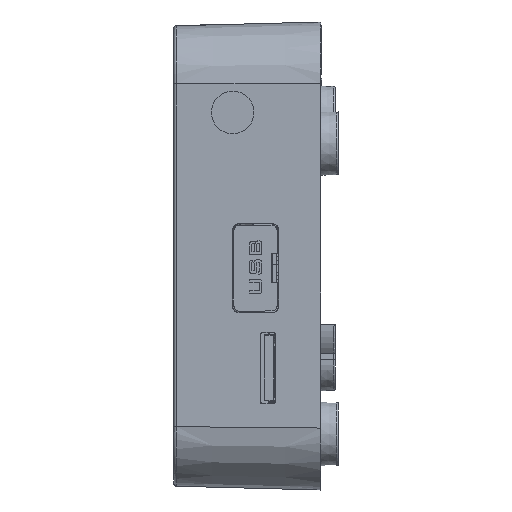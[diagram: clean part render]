
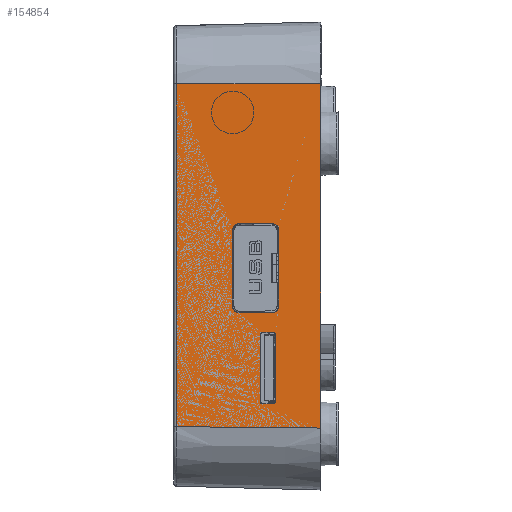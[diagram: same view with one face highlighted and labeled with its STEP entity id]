
A CAD part, left-side view. The second image highlights one B-rep face of the part: STEP entity #154854.
In plain terms, the highlighted planar face has unit normal (-1, 0.026, 0).
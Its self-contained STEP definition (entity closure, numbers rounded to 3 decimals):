
#4531=ELLIPSE('',#162368,0.356,0.356);
#4533=ELLIPSE('',#162372,0.356,0.356);
#4535=ELLIPSE('',#162376,0.357,0.357);
#4537=ELLIPSE('',#162380,0.357,0.357);
#4539=ELLIPSE('',#162384,1.12,1.12);
#4541=ELLIPSE('',#162388,1.116,1.116);
#4543=ELLIPSE('',#162392,1.12,1.12);
#4545=ELLIPSE('',#162396,1.116,1.116);
#4558=ELLIPSE('',#162851,0.6,0.6);
#9482=FACE_BOUND('',#18553,.T.);
#9483=FACE_BOUND('',#18554,.T.);
#11294=FACE_OUTER_BOUND('',#18552,.T.);
#18552=EDGE_LOOP('',(#112711,#112712,#112713,#112714,#112715,#112716));
#18553=EDGE_LOOP('',(#112717,#112718,#112719,#112720,#112721,#112722,#112723,
#112724));
#18554=EDGE_LOOP('',(#112725,#112726,#112727,#112728,#112729,#112730,#112731,
#112732));
#30679=LINE('',#219072,#47432);
#30683=LINE('',#219084,#47436);
#30687=LINE('',#219096,#47440);
#30692=LINE('',#219109,#47445);
#30695=LINE('',#219120,#47448);
#30699=LINE('',#219132,#47452);
#30702=LINE('',#219142,#47455);
#30708=LINE('',#219157,#47461);
#31305=LINE('',#224211,#48058);
#31307=LINE('',#224224,#48060);
#31315=LINE('',#224249,#48068);
#31335=LINE('',#224366,#48088);
#31336=LINE('',#224369,#48089);
#47432=VECTOR('',#176522,10.);
#47436=VECTOR('',#176534,10.);
#47440=VECTOR('',#176546,10.);
#47445=VECTOR('',#176559,10.);
#47448=VECTOR('',#176570,10.);
#47452=VECTOR('',#176582,10.);
#47455=VECTOR('',#176593,10.);
#47461=VECTOR('',#176607,10.);
#48058=VECTOR('',#178008,10.);
#48060=VECTOR('',#178028,10.001);
#48068=VECTOR('',#178056,2.43);
#48088=VECTOR('',#178148,10.);
#48089=VECTOR('',#178151,10.);
#64289=VERTEX_POINT('',#219069);
#64290=VERTEX_POINT('',#219071);
#64292=VERTEX_POINT('',#219077);
#64294=VERTEX_POINT('',#219083);
#64296=VERTEX_POINT('',#219089);
#64298=VERTEX_POINT('',#219095);
#64300=VERTEX_POINT('',#219101);
#64302=VERTEX_POINT('',#219107);
#64305=VERTEX_POINT('',#219117);
#64306=VERTEX_POINT('',#219119);
#64308=VERTEX_POINT('',#219125);
#64310=VERTEX_POINT('',#219131);
#64312=VERTEX_POINT('',#219137);
#64313=VERTEX_POINT('',#219141);
#64316=VERTEX_POINT('',#219149);
#64318=VERTEX_POINT('',#219155);
#65019=VERTEX_POINT('',#224205);
#65020=VERTEX_POINT('',#224209);
#65022=VERTEX_POINT('',#224222);
#65029=VERTEX_POINT('',#224247);
#65042=VERTEX_POINT('',#224365);
#65043=VERTEX_POINT('',#224367);
#83746=EDGE_CURVE('',#64290,#64289,#30679,.T.);
#83749=EDGE_CURVE('',#64292,#64290,#4531,.T.);
#83752=EDGE_CURVE('',#64294,#64292,#30683,.T.);
#83755=EDGE_CURVE('',#64296,#64294,#4533,.T.);
#83758=EDGE_CURVE('',#64298,#64296,#30687,.T.);
#83762=EDGE_CURVE('',#64289,#64300,#4535,.T.);
#83765=EDGE_CURVE('',#64300,#64302,#30692,.T.);
#83767=EDGE_CURVE('',#64302,#64298,#4537,.T.);
#83770=EDGE_CURVE('',#64306,#64305,#30695,.T.);
#83773=EDGE_CURVE('',#64308,#64306,#4539,.T.);
#83776=EDGE_CURVE('',#64310,#64308,#30699,.T.);
#83779=EDGE_CURVE('',#64312,#64310,#4541,.T.);
#83781=EDGE_CURVE('',#64313,#64312,#30702,.T.);
#83786=EDGE_CURVE('',#64305,#64316,#4543,.T.);
#83789=EDGE_CURVE('',#64316,#64318,#30708,.T.);
#83791=EDGE_CURVE('',#64318,#64313,#4545,.T.);
#84863=EDGE_CURVE('',#65019,#65020,#31305,.T.);
#84870=EDGE_CURVE('',#65022,#65019,#31307,.T.);
#84883=EDGE_CURVE('',#65029,#65022,#31315,.T.);
#84915=EDGE_CURVE('',#65042,#65020,#31335,.T.);
#84916=EDGE_CURVE('',#65042,#65043,#4558,.T.);
#84917=EDGE_CURVE('',#65029,#65043,#31336,.T.);
#112711=ORIENTED_EDGE('',*,*,#84870,.F.);
#112712=ORIENTED_EDGE('',*,*,#84883,.F.);
#112713=ORIENTED_EDGE('',*,*,#84917,.T.);
#112714=ORIENTED_EDGE('',*,*,#84916,.F.);
#112715=ORIENTED_EDGE('',*,*,#84915,.T.);
#112716=ORIENTED_EDGE('',*,*,#84863,.F.);
#112717=ORIENTED_EDGE('',*,*,#83758,.T.);
#112718=ORIENTED_EDGE('',*,*,#83755,.T.);
#112719=ORIENTED_EDGE('',*,*,#83752,.T.);
#112720=ORIENTED_EDGE('',*,*,#83749,.T.);
#112721=ORIENTED_EDGE('',*,*,#83746,.T.);
#112722=ORIENTED_EDGE('',*,*,#83762,.T.);
#112723=ORIENTED_EDGE('',*,*,#83765,.T.);
#112724=ORIENTED_EDGE('',*,*,#83767,.T.);
#112725=ORIENTED_EDGE('',*,*,#83781,.T.);
#112726=ORIENTED_EDGE('',*,*,#83779,.T.);
#112727=ORIENTED_EDGE('',*,*,#83776,.T.);
#112728=ORIENTED_EDGE('',*,*,#83773,.T.);
#112729=ORIENTED_EDGE('',*,*,#83770,.T.);
#112730=ORIENTED_EDGE('',*,*,#83786,.T.);
#112731=ORIENTED_EDGE('',*,*,#83789,.T.);
#112732=ORIENTED_EDGE('',*,*,#83791,.T.);
#144215=PLANE('',#162853);
#154854=ADVANCED_FACE('',(#11294,#9482,#9483),#144215,.T.);
#162368=AXIS2_PLACEMENT_3D('',#219078,#176528,#176529);
#162372=AXIS2_PLACEMENT_3D('',#219090,#176540,#176541);
#162376=AXIS2_PLACEMENT_3D('',#219103,#176553,#176554);
#162380=AXIS2_PLACEMENT_3D('',#219112,#176564,#176565);
#162384=AXIS2_PLACEMENT_3D('',#219126,#176576,#176577);
#162388=AXIS2_PLACEMENT_3D('',#219138,#176588,#176589);
#162392=AXIS2_PLACEMENT_3D('',#219151,#176601,#176602);
#162396=AXIS2_PLACEMENT_3D('',#219160,#176612,#176613);
#162851=AXIS2_PLACEMENT_3D('',#224368,#178149,#178150);
#162853=AXIS2_PLACEMENT_3D('',#224371,#178154,#178155);
#176522=DIRECTION('',(-0.026,-1.,0.001));
#176528=DIRECTION('center_axis',(1.,-0.026,0.));
#176529=DIRECTION('ref_axis',(0.026,1.,0.));
#176534=DIRECTION('',(0.,0.,1.));
#176540=DIRECTION('center_axis',(1.,-0.026,0.));
#176541=DIRECTION('ref_axis',(0.026,1.,0.));
#176546=DIRECTION('',(0.026,1.,0.001));
#176553=DIRECTION('center_axis',(1.,-0.026,0.));
#176554=DIRECTION('ref_axis',(0.026,1.,0.));
#176559=DIRECTION('',(0.,0.,-1.));
#176564=DIRECTION('center_axis',(1.,-0.026,0.));
#176565=DIRECTION('ref_axis',(0.026,1.,0.));
#176570=DIRECTION('',(0.,0.,-1.));
#176576=DIRECTION('center_axis',(1.,-0.026,0.));
#176577=DIRECTION('ref_axis',(0.026,1.,0.));
#176582=DIRECTION('',(-0.026,-1.,0.001));
#176588=DIRECTION('center_axis',(1.,-0.026,0.));
#176589=DIRECTION('ref_axis',(0.026,1.,0.));
#176593=DIRECTION('',(0.,0.,1.));
#176601=DIRECTION('center_axis',(1.,-0.026,0.));
#176602=DIRECTION('ref_axis',(0.026,1.,0.));
#176607=DIRECTION('',(0.026,1.,0.001));
#176612=DIRECTION('center_axis',(1.,-0.026,0.));
#176613=DIRECTION('ref_axis',(0.026,1.,0.));
#178008=DIRECTION('',(0.,0.,1.));
#178028=DIRECTION('',(0.026,1.,0.009));
#178056=DIRECTION('',(0.,0.,-1.));
#178148=DIRECTION('',(0.026,1.,0.));
#178149=DIRECTION('center_axis',(-1.,0.026,0.));
#178150=DIRECTION('ref_axis',(-0.026,-1.,0.));
#178151=DIRECTION('',(0.026,1.,0.));
#178154=DIRECTION('center_axis',(-1.,0.026,0.));
#178155=DIRECTION('ref_axis',(0.,0.,
1.));
#219069=CARTESIAN_POINT('',(-92.91,7.576,-5.764));
#219071=CARTESIAN_POINT('',(-92.861,9.426,-5.765));
#219072=CARTESIAN_POINT('',(-92.984,4.749,-5.762));
#219077=CARTESIAN_POINT('',(-92.852,9.781,-6.121));
#219078=CARTESIAN_POINT('Origin',(-92.861,9.425,-6.121));
#219083=CARTESIAN_POINT('',(-92.852,9.781,-17.501));
#219084=CARTESIAN_POINT('',(-92.852,9.781,-19.717));
#219089=CARTESIAN_POINT('',(-92.861,9.426,-17.857));
#219090=CARTESIAN_POINT('Origin',(-92.861,9.425,-17.501));
#219095=CARTESIAN_POINT('',(-92.91,7.576,-17.858));
#219096=CARTESIAN_POINT('',(-93.008,3.818,-17.86));
#219101=CARTESIAN_POINT('',(-92.919,7.218,-6.121));
#219103=CARTESIAN_POINT('Origin',(-92.91,7.575,-6.121));
#219107=CARTESIAN_POINT('',(-92.919,7.218,-17.501));
#219109=CARTESIAN_POINT('',(-92.919,7.218,-14.027));
#219112=CARTESIAN_POINT('Origin',(-92.91,7.575,-17.501));
#219117=CARTESIAN_POINT('',(-92.932,6.72,-1.301));
#219119=CARTESIAN_POINT('',(-92.932,6.72,11.524));
#219120=CARTESIAN_POINT('',(-92.932,6.72,-5.204));
#219125=CARTESIAN_POINT('',(-92.903,7.841,12.644));
#219126=CARTESIAN_POINT('Origin',(-92.903,7.84,11.524));
#219131=CARTESIAN_POINT('',(-92.756,13.426,12.64));
#219132=CARTESIAN_POINT('',(-92.931,6.755,12.645));
#219137=CARTESIAN_POINT('',(-92.727,14.542,11.524));
#219138=CARTESIAN_POINT('Origin',(-92.757,13.425,11.524));
#219141=CARTESIAN_POINT('',(-92.727,14.542,-1.301));
#219142=CARTESIAN_POINT('',(-92.727,14.542,-11.617));
#219149=CARTESIAN_POINT('',(-92.903,7.841,-2.421));
#219151=CARTESIAN_POINT('Origin',(-92.903,7.84,-1.301));
#219155=CARTESIAN_POINT('',(-92.756,13.426,-2.417));
#219157=CARTESIAN_POINT('',(-93.005,3.945,-2.424));
#219160=CARTESIAN_POINT('Origin',(-92.757,13.425,-1.301));
#224205=CARTESIAN_POINT('',(-92.479,24.013,-21.713));
#224209=CARTESIAN_POINT('',(-92.479,24.013,36.288));
#224211=CARTESIAN_POINT('',(-92.479,24.013,-2.21));
#224222=CARTESIAN_POINT('',(-93.119,-0.4,-21.94));
#224224=CARTESIAN_POINT('',(-93.05,2.228,-21.916));
#224247=CARTESIAN_POINT('',(-93.119,-0.4,36.288));
#224249=CARTESIAN_POINT('',(-93.119,-0.4,-19.513));
#224365=CARTESIAN_POINT('',(-92.739,14.104,36.288));
#224366=CARTESIAN_POINT('',(-93.119,-0.4,36.288));
#224367=CARTESIAN_POINT('',(-92.739,14.103,36.288));
#224368=CARTESIAN_POINT('Origin',(-92.726,14.593,36.635));
#224369=CARTESIAN_POINT('',(-93.047,2.35,36.288));
#224371=CARTESIAN_POINT('Origin',(-93.108,0.006,-21.933));
